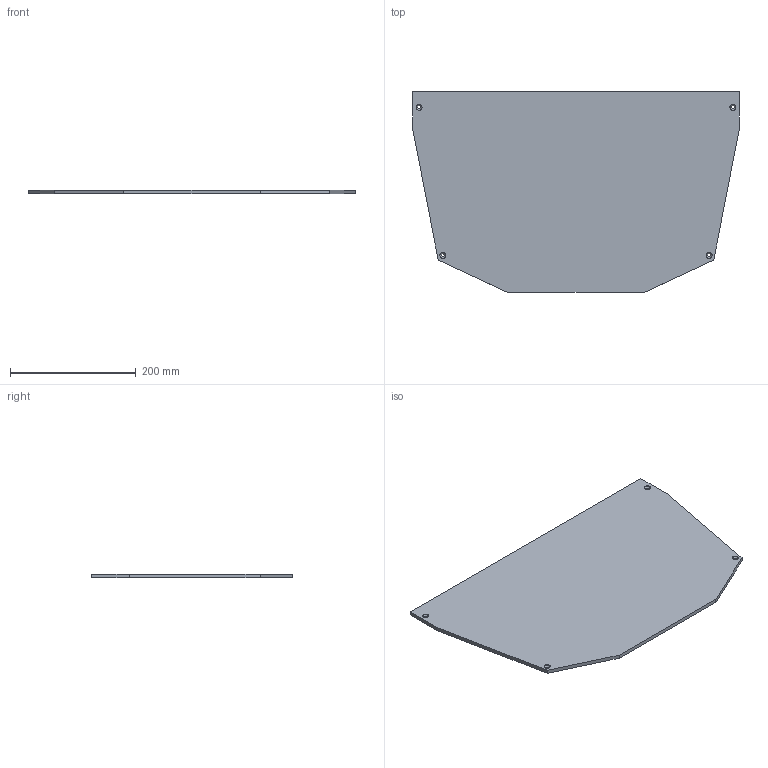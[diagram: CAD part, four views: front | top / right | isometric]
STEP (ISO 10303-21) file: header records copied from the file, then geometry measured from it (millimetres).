
FILE_DESCRIPTION(('CATIA V5 STEP Exchange'),'2;1');
FILE_NAME('C:\Users\Alexis David Sanna\Documents\INVESTIGACION\ROMAA NUEVO (MOTOR REMSSI)\STEP\placa superior trasera-M.stp','2010-10-29T19:48:41+00:00',('none'),('none'),'CATIA Version 5 Release 18 GA (IN-10)','CATIA V5 STEP AP203','none');
FILE_SCHEMA(('CONFIG_CONTROL_DESIGN'));
Length unit declared in the file: millimetre
Products named in the file (1): placa superior trasera-M
Bounding box: 520 x 320 x 6 mm (x, y, z)
Volume: 887627.7 mm3; surface area: 305539.1 mm2
Topology: 1 solids, 1 shells, 34 faces, 80 edges, 48 vertices
Faces by surface type: cylinder 16, plane 10, cone 8
Entity records: 934 total; most frequent: ORIENTED_EDGE 160, CARTESIAN_POINT 151, DIRECTION 124, EDGE_CURVE 80, AXIS2_PLACEMENT_3D 55, VECTOR 48, LINE 48, VERTEX_POINT 48
